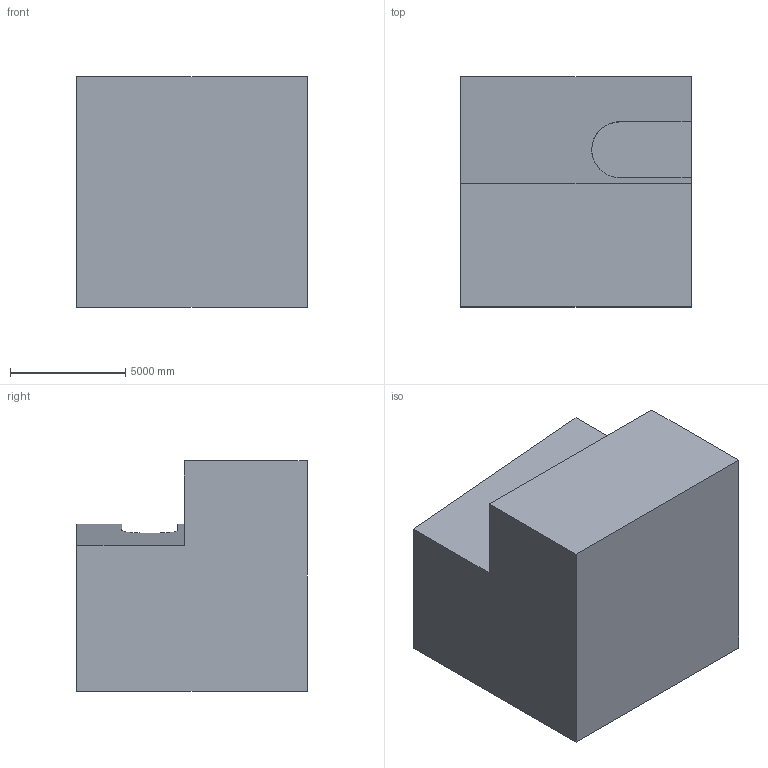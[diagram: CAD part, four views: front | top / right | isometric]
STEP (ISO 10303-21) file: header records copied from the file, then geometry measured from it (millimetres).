
FILE_DESCRIPTION (( 'STEP AP203' ), '1' );
FILE_NAME ('155.STEP', '2022-07-28T13:45:34', ( 'user' ), ( '' ), 'SwSTEP 2.0', 'SolidWorks 2021', '' );
FILE_SCHEMA (( 'CONFIG_CONTROL_DESIGN' ));
Length unit declared in the file: centimetre
Products named in the file (1): 155
Bounding box: 10000 x 10000 x 10000 mm (x, y, z)
Volume: 797031603612.4 mm3; surface area: 610958100.9 mm2
Topology: 1 solids, 1 shells, 12 faces, 30 edges, 20 vertices
Faces by surface type: plane 11, cylinder 1
Entity records: 432 total; most frequent: CARTESIAN_POINT 66, ORIENTED_EDGE 60, DIRECTION 56, EDGE_CURVE 30, VECTOR 28, LINE 28, VERTEX_POINT 20, AXIS2_PLACEMENT_3D 14
